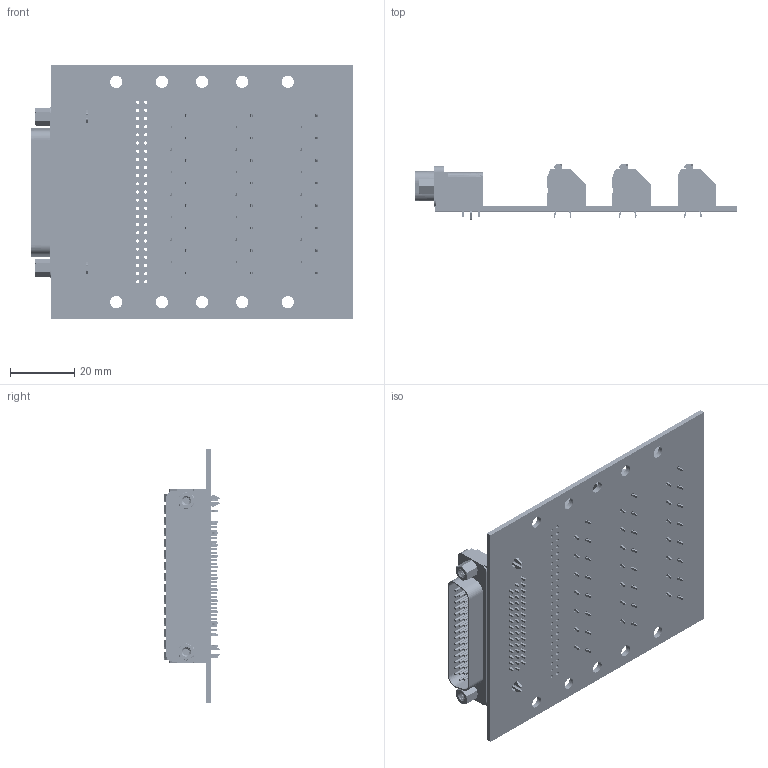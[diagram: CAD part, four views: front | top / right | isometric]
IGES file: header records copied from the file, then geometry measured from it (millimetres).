
Start section: SolidWorks IGES file using analytic representation for surfaces
Global section: file name: W:\end-user\products\brk\brkg44hdm-r\3dmodel\rev_a\render\brkg44hdm-r-n_rev_a.igs; native system: SolidWorks 2018; preprocessor: SolidWorks 2018; author: leviroy; date: 210823.153549; units: inch
Bounding box: 100.23 x 17.25 x 78.74 mm (x, y, z)
Surface area: 33800.3 mm2 (no closed solid volume)
Topology: 0 solids, 0 shells, 8357 faces, 80035 edges, 80031 vertices
Faces by surface type: bspline 6394, revolution 1963
